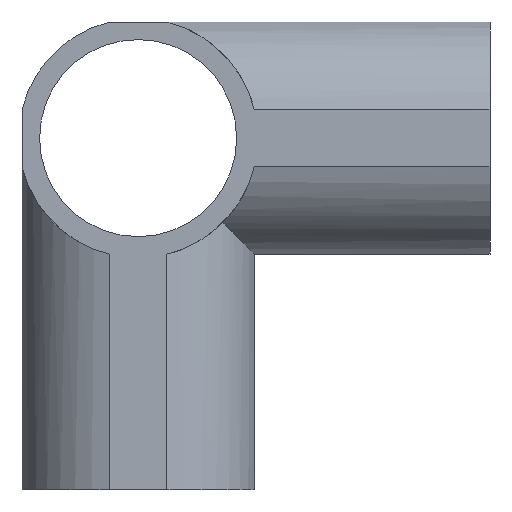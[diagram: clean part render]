
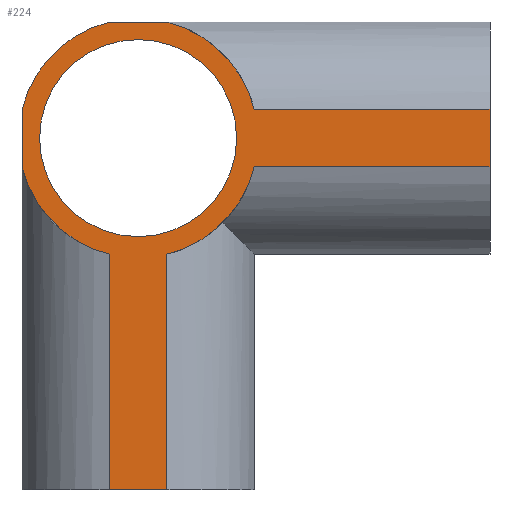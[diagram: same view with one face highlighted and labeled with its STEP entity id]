
A CAD part, front view. The second image highlights one B-rep face of the part: STEP entity #224.
In plain terms, the highlighted planar face has unit normal (0, -1, 0).
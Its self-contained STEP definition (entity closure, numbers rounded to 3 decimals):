
#10 = CARTESIAN_POINT ( 'NONE',  ( 16.5, -16.5, -4.093 ) ) ;
#18 = DIRECTION ( 'NONE',  ( 0., -1., 0. ) ) ;
#37 = VERTEX_POINT ( 'NONE', #289 ) ;
#40 = ORIENTED_EDGE ( 'NONE', *, *, #97, .F. ) ;
#42 = CIRCLE ( 'NONE', #709, 17. ) ;
#52 = CARTESIAN_POINT ( 'NONE',  ( 0., -16.5, 0. ) ) ;
#58 = VECTOR ( 'NONE', #981, 1000. ) ;
#68 = CARTESIAN_POINT ( 'NONE',  ( 4.093, -16.5, 16.5 ) ) ;
#76 = CIRCLE ( 'NONE', #805, 17. ) ;
#82 = VERTEX_POINT ( 'NONE', #749 ) ;
#97 = EDGE_CURVE ( 'NONE', #206, #414, #42, .T. ) ;
#109 = AXIS2_PLACEMENT_3D ( 'NONE', #570, #18, #637 ) ;
#111 = CIRCLE ( 'NONE', #928, 17. ) ;
#116 = VERTEX_POINT ( 'NONE', #892 ) ;
#126 = VECTOR ( 'NONE', #826, 1000. ) ;
#130 = CARTESIAN_POINT ( 'NONE',  ( 0., -16.5, 0. ) ) ;
#138 = LINE ( 'NONE', #278, #126 ) ;
#150 = VERTEX_POINT ( 'NONE', #1001 ) ;
#156 = VECTOR ( 'NONE', #748, 1000. ) ;
#166 = EDGE_CURVE ( 'NONE', #327, #897, #462, .T. ) ;
#174 = VERTEX_POINT ( 'NONE', #10 ) ;
#193 = DIRECTION ( 'NONE',  ( 0., 1., 0. ) ) ;
#195 = ORIENTED_EDGE ( 'NONE', *, *, #923, .F. ) ;
#198 = CARTESIAN_POINT ( 'NONE',  ( -16.5, -16.5, 4.093 ) ) ;
#200 = ORIENTED_EDGE ( 'NONE', *, *, #537, .T. ) ;
#206 = VERTEX_POINT ( 'NONE', #68 ) ;
#213 = LINE ( 'NONE', #508, #58 ) ;
#224 = ADVANCED_FACE ( 'NONE', ( #924, #1005 ), #778, .F. ) ;
#227 = EDGE_LOOP ( 'NONE', ( #633, #579 ) ) ;
#233 = DIRECTION ( 'NONE',  ( 0., 0., 1. ) ) ;
#234 = DIRECTION ( 'NONE',  ( 0., 1., 0. ) ) ;
#242 = CARTESIAN_POINT ( 'NONE',  ( -16.5, -16.5, 4.1 ) ) ;
#252 = CIRCLE ( 'NONE', #109, 14. ) ;
#261 = DIRECTION ( 'NONE',  ( 0., 0., -1. ) ) ;
#266 = EDGE_CURVE ( 'NONE', #610, #150, #760, .T. ) ;
#269 = DIRECTION ( 'NONE',  ( -1., 0., 0. ) ) ;
#278 = CARTESIAN_POINT ( 'NONE',  ( -4.1, -16.5, 16.5 ) ) ;
#280 = VECTOR ( 'NONE', #233, 1000. ) ;
#289 = CARTESIAN_POINT ( 'NONE',  ( 4.093, -16.5, -16.5 ) ) ;
#299 = CARTESIAN_POINT ( 'NONE',  ( -4.093, -16.5, 17.001 ) ) ;
#310 = VECTOR ( 'NONE', #543, 1000. ) ;
#314 = DIRECTION ( 'NONE',  ( 0., 0., -1. ) ) ;
#327 = VERTEX_POINT ( 'NONE', #887 ) ;
#336 = EDGE_CURVE ( 'NONE', #327, #82, #544, .T. ) ;
#355 = CARTESIAN_POINT ( 'NONE',  ( 0., -16.5, 0. ) ) ;
#360 = CARTESIAN_POINT ( 'NONE',  ( 16.5, -16.5, 4.093 ) ) ;
#364 = ORIENTED_EDGE ( 'NONE', *, *, #166, .T. ) ;
#372 = EDGE_CURVE ( 'NONE', #150, #610, #252, .T. ) ;
#388 = DIRECTION ( 'NONE',  ( 0., 0., 1. ) ) ;
#390 = ORIENTED_EDGE ( 'NONE', *, *, #505, .F. ) ;
#396 = VERTEX_POINT ( 'NONE', #566 ) ;
#411 = VECTOR ( 'NONE', #269, 1000. ) ;
#414 = VERTEX_POINT ( 'NONE', #360 ) ;
#415 = LINE ( 'NONE', #732, #774 ) ;
#419 = ORIENTED_EDGE ( 'NONE', *, *, #336, .F. ) ;
#421 = DIRECTION ( 'NONE',  ( 0., 0., 1. ) ) ;
#462 = LINE ( 'NONE', #299, #850 ) ;
#468 = VERTEX_POINT ( 'NONE', #198 ) ;
#475 = CARTESIAN_POINT ( 'NONE',  ( 50., -16.5, 4.1 ) ) ;
#476 = AXIS2_PLACEMENT_3D ( 'NONE', #810, #563, #261 ) ;
#493 = ORIENTED_EDGE ( 'NONE', *, *, #764, .T. ) ;
#498 = ORIENTED_EDGE ( 'NONE', *, *, #554, .F. ) ;
#505 = EDGE_CURVE ( 'NONE', #468, #116, #111, .T. ) ;
#508 = CARTESIAN_POINT ( 'NONE',  ( 0., -16.5, -50. ) ) ;
#516 = DIRECTION ( 'NONE',  ( 0., 1., 0. ) ) ;
#523 = VERTEX_POINT ( 'NONE', #971 ) ;
#525 = DIRECTION ( 'NONE',  ( 0., 1., 0. ) ) ;
#526 = AXIS2_PLACEMENT_3D ( 'NONE', #799, #193, #788 ) ;
#533 = EDGE_CURVE ( 'NONE', #897, #603, #213, .T. ) ;
#536 = CARTESIAN_POINT ( 'NONE',  ( 4.093, -16.5, -50. ) ) ;
#537 = EDGE_CURVE ( 'NONE', #603, #37, #817, .T. ) ;
#539 = DIRECTION ( 'NONE',  ( 0., 0., 1. ) ) ;
#543 = DIRECTION ( 'NONE',  ( 0., 0., 1. ) ) ;
#544 = CIRCLE ( 'NONE', #526, 17. ) ;
#553 = ORIENTED_EDGE ( 'NONE', *, *, #775, .T. ) ;
#554 = EDGE_CURVE ( 'NONE', #174, #37, #76, .T. ) ;
#563 = DIRECTION ( 'NONE',  ( 0., -1., 0. ) ) ;
#566 = CARTESIAN_POINT ( 'NONE',  ( 50., -16.5, 4.093 ) ) ;
#570 = CARTESIAN_POINT ( 'NONE',  ( 0., -16.5, 0. ) ) ;
#579 = ORIENTED_EDGE ( 'NONE', *, *, #372, .F. ) ;
#583 = ORIENTED_EDGE ( 'NONE', *, *, #533, .T. ) ;
#584 = EDGE_CURVE ( 'NONE', #523, #396, #847, .T. ) ;
#602 = DIRECTION ( 'NONE',  ( 0., 0., 1. ) ) ;
#603 = VERTEX_POINT ( 'NONE', #536 ) ;
#610 = VERTEX_POINT ( 'NONE', #631 ) ;
#631 = CARTESIAN_POINT ( 'NONE',  ( 0., -16.5, -14. ) ) ;
#633 = ORIENTED_EDGE ( 'NONE', *, *, #266, .F. ) ;
#637 = DIRECTION ( 'NONE',  ( 0., 0., -1. ) ) ;
#656 = LINE ( 'NONE', #970, #411 ) ;
#689 = AXIS2_PLACEMENT_3D ( 'NONE', #690, #234, #539 ) ;
#690 = CARTESIAN_POINT ( 'NONE',  ( 0., -16.5, 0. ) ) ;
#709 = AXIS2_PLACEMENT_3D ( 'NONE', #52, #525, #602 ) ;
#717 = ORIENTED_EDGE ( 'NONE', *, *, #584, .T. ) ;
#729 = ORIENTED_EDGE ( 'NONE', *, *, #959, .F. ) ;
#732 = CARTESIAN_POINT ( 'NONE',  ( -17.001, -16.5, -4.093 ) ) ;
#748 = DIRECTION ( 'NONE',  ( 0., 0., 1. ) ) ;
#749 = CARTESIAN_POINT ( 'NONE',  ( -16.5, -16.5, -4.093 ) ) ;
#760 = CIRCLE ( 'NONE', #476, 14. ) ;
#764 = EDGE_CURVE ( 'NONE', #174, #523, #415, .T. ) ;
#774 = VECTOR ( 'NONE', #886, 1000. ) ;
#775 = EDGE_CURVE ( 'NONE', #396, #414, #656, .T. ) ;
#778 = PLANE ( 'NONE',  #689 ) ;
#788 = DIRECTION ( 'NONE',  ( 0., 0., 1. ) ) ;
#799 = CARTESIAN_POINT ( 'NONE',  ( 0., -16.5, 0. ) ) ;
#805 = AXIS2_PLACEMENT_3D ( 'NONE', #355, #855, #388 ) ;
#810 = CARTESIAN_POINT ( 'NONE',  ( 0., -16.5, 0. ) ) ;
#817 = LINE ( 'NONE', #895, #156 ) ;
#826 = DIRECTION ( 'NONE',  ( 1., 0., 0. ) ) ;
#840 = CARTESIAN_POINT ( 'NONE',  ( -4.093, -16.5, -50. ) ) ;
#847 = LINE ( 'NONE', #475, #280 ) ;
#850 = VECTOR ( 'NONE', #314, 1000. ) ;
#855 = DIRECTION ( 'NONE',  ( 0., 1., 0. ) ) ;
#868 = LINE ( 'NONE', #242, #310 ) ;
#886 = DIRECTION ( 'NONE',  ( 1., 0., 0. ) ) ;
#887 = CARTESIAN_POINT ( 'NONE',  ( -4.093, -16.5, -16.5 ) ) ;
#892 = CARTESIAN_POINT ( 'NONE',  ( -4.093, -16.5, 16.5 ) ) ;
#895 = CARTESIAN_POINT ( 'NONE',  ( 4.093, -16.5, 17.001 ) ) ;
#897 = VERTEX_POINT ( 'NONE', #840 ) ;
#923 = EDGE_CURVE ( 'NONE', #116, #206, #138, .T. ) ;
#924 = FACE_BOUND ( 'NONE', #227, .T. ) ;
#928 = AXIS2_PLACEMENT_3D ( 'NONE', #130, #516, #421 ) ;
#942 = EDGE_LOOP ( 'NONE', ( #40, #195, #390, #729, #419, #364, #583, #200, #498, #493, #717, #553 ) ) ;
#959 = EDGE_CURVE ( 'NONE', #82, #468, #868, .T. ) ;
#970 = CARTESIAN_POINT ( 'NONE',  ( -17.001, -16.5, 4.093 ) ) ;
#971 = CARTESIAN_POINT ( 'NONE',  ( 50., -16.5, -4.093 ) ) ;
#981 = DIRECTION ( 'NONE',  ( 1., 0., 0. ) ) ;
#1001 = CARTESIAN_POINT ( 'NONE',  ( 0., -16.5, 14. ) ) ;
#1005 = FACE_OUTER_BOUND ( 'NONE', #942, .T. ) ;
